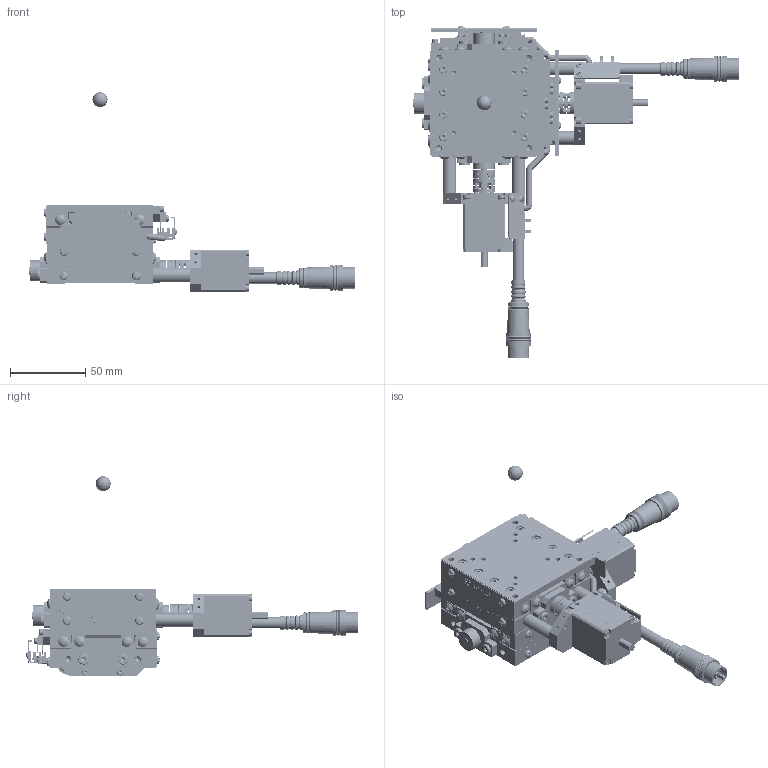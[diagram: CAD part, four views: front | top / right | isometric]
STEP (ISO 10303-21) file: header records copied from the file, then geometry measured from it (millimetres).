
FILE_DESCRIPTION( (''), '2;1');
FILE_NAME ('SA07A-R2S01.stp','2022-01-24T14:33:02',(''),(''),'spGate 17.5.5','','');
FILE_SCHEMA (('AUTOMOTIVE_DESIGN'));
Length unit declared in the file: millimetre
Products named in the file (11): Assembly; SA07A-R2S01-prt0; SA07A-R2S01-prt1; SA07A-R2S01-prt2; SA07A-R2S01-prt3; SA07A-R2S01-prt4; SA07A-R2S01-prt5; SA07A-R2S01-prt6; SA07A-R2S01-prt7; SA07A-R2S01-prt8; SA07A-R2S01-prt9
Assembly tree (10 placements, depth 2):
  Assembly
    SA07A-R2S01-prt0
    SA07A-R2S01-prt1
    SA07A-R2S01-prt2
    SA07A-R2S01-prt3
    SA07A-R2S01-prt4
    SA07A-R2S01-prt5
    SA07A-R2S01-prt6
    SA07A-R2S01-prt7
    SA07A-R2S01-prt8
    SA07A-R2S01-prt9
Bounding box: 216 x 220.18 x 132.5 mm (x, y, z)
Volume: 366885.1 mm3; surface area: 127670.6 mm2
Topology: 10 solids, 18 shells, 5997 faces, 15290 edges, 9588 vertices
Faces by surface type: plane 3715, cylinder 1416, bspline 772, sphere 94
Entity records: 306764 total; most frequent: CARTESIAN_POINT 44117, ORIENTED_EDGE 30194, DIRECTION 28328, COLOUR_RGB 21102, PRESENTATION_STYLE_ASSIGNMENT 21102, STYLED_ITEM 21102, EDGE_CURVE 15097, DRAUGHTING_PRE_DEFINED_CURVE_FONT 15097
